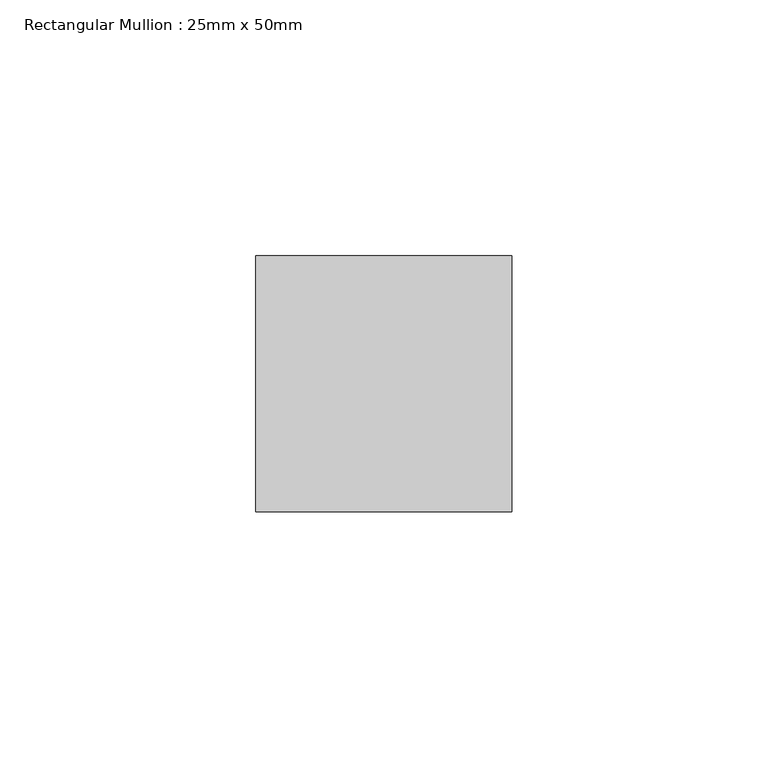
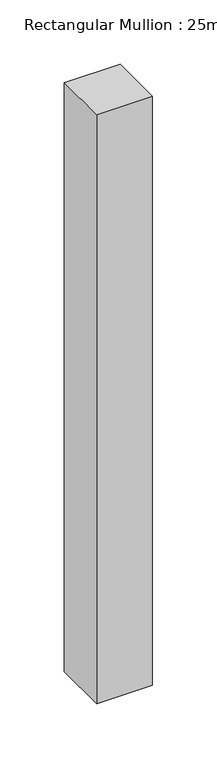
"""IFC4 building model written with IfcOpenShell, lengths in millimetres: member geometry, Rectangular Mullion : 25mm x 50mm."""

import ifcopenshell
import ifcopenshell.guid

model = None  # the IFC model being written
_history = None  # IfcOwnerHistory: only IFC2X3 demands one
_inside = {}  # id of a spatial element -> (the spatial element, [elements in it])
_under = {}  # id of a project, library or spatial element -> (it, [spatial elements below it])
_declared = {}  # id of a project -> (the project, [libraries it declares])
_typed = {}  # id of a type object -> (the type object, [elements of that type])
_made_of = {}  # id of a material, layer set ... -> (it, [elements and type objects made of it])


def new_model(schema):
    """Start an empty IFC model of exactly this schema.

    Asked for "IFC4X3", IfcOpenShell would pick the latest addendum, in which some entities
    have other attributes; the version numbers below select the first issue.
    IFC2X3 requires an IfcOwnerHistory on every rooted entity: one is made here for all.
    """
    global model, _history
    if schema == "IFC4X3":
        model = ifcopenshell.file(schema_version=(4, 3, 0, 0))
    else:
        model = ifcopenshell.file(schema=schema)
    _inside.clear()
    _under.clear()
    _declared.clear()
    _typed.clear()
    _made_of.clear()
    _history = None
    if model.schema == "IFC2X3":
        org = make("IfcOrganization", Name="unknown")
        user = make(
            "IfcPersonAndOrganization",
            ThePerson=make("IfcPerson", FamilyName="unknown"),
            TheOrganization=org,
        )
        app = make(
            "IfcApplication",
            ApplicationDeveloper=org,
            Version="unknown",
            ApplicationFullName="unknown",
            ApplicationIdentifier="unknown",
        )
        _history = make(
            "IfcOwnerHistory",
            OwningUser=user,
            OwningApplication=app,
            ChangeAction="ADDED",
            CreationDate=0,
        )
    return model


def make(cls, **values):
    """One entity of the class cls with the attributes given. An attribute that is None is left unset."""
    return model.create_entity(
        cls, **{name: value for name, value in values.items() if value is not None}
    )


def rooted(cls, **values):
    """An entity with a GlobalId (a new one), such as an element, a storey or a relation."""
    return make(cls, GlobalId=ifcopenshell.guid.new(), OwnerHistory=_history, **values)


def si_unit(unit_type, name, prefix=None):
    """IfcSIUnit, for example si_unit("LENGTHUNIT", "METRE", prefix="MILLI")."""
    return make("IfcSIUnit", UnitType=unit_type, Prefix=prefix, Name=name)


def assignment(units):
    """IfcUnitAssignment: the units of a project."""
    return None if units is None else make("IfcUnitAssignment", Units=units)


def point(xyz):
    """IfcCartesianPoint."""
    return None if xyz is None else make("IfcCartesianPoint", Coordinates=xyz)


def direction(xyz):
    """IfcDirection."""
    return None if xyz is None else make("IfcDirection", DirectionRatios=xyz)


def frame(location, z_axis=None, x_axis=None):
    """IfcAxis2Placement3D, a coordinate frame: its origin and axes. An axis left out is left unset."""
    return make(
        "IfcAxis2Placement3D",
        Location=point(location),
        Axis=direction(z_axis),
        RefDirection=direction(x_axis),
    )


def origin():
    """The frame at (0, 0, 0) with its axes left unset."""
    return frame((0.0, 0.0, 0.0))


def place(relative_to, where):
    """IfcLocalPlacement: puts the frame where relative to a parent placement (None: the world)."""
    return make(
        "IfcLocalPlacement", PlacementRelTo=relative_to, RelativePlacement=where
    )


def context(
    kind, dimensions, precision=None, world=None, true_north=None, identifier=None
):
    """IfcGeometricRepresentationContext, for example the 3D "Model" context."""
    return make(
        "IfcGeometricRepresentationContext",
        ContextIdentifier=identifier,
        ContextType=kind,
        CoordinateSpaceDimension=dimensions,
        Precision=precision,
        WorldCoordinateSystem=world,
        TrueNorth=true_north,
    )


def project(units=None, contexts=None):
    """IfcProject with its units and contexts."""
    return rooted(
        "IfcProject",
        Name="project",
        RepresentationContexts=contexts,
        UnitsInContext=assignment(units),
    )


def spatial(cls, under=None, at=None, **own):
    """A site, building, storey or space (cls), placed at a placement, below another one or the project."""
    s = rooted(cls, ObjectPlacement=at, **own)
    if under is not None:
        _under.setdefault(under.id(), (under, []))[1].append(s)
    return s


def polyline(points):
    """IfcPolyline through the points."""
    return make("IfcPolyline", Points=[point(p) for p in points])


def outline(outer, holes=None, kind="AREA"):
    """IfcArbitraryClosedProfileDef: a profile drawn as a closed curve; with holes, ...WithVoids."""
    if holes is None:
        return make("IfcArbitraryClosedProfileDef", ProfileType=kind, OuterCurve=outer)
    return make(
        "IfcArbitraryProfileDefWithVoids",
        ProfileType=kind,
        OuterCurve=outer,
        InnerCurves=holes,
    )


def extrude(swept, where, along, depth):
    """IfcExtrudedAreaSolid: the profile swept, set in the frame where, extruded along a direction by depth."""
    return make(
        "IfcExtrudedAreaSolid",
        SweptArea=swept,
        Position=where,
        ExtrudedDirection=direction(along),
        Depth=depth,
    )


def shape(context_of_items, identifier, shape_type, items):
    """IfcShapeRepresentation: the items that make up one representation, for example the "Body"."""
    return make(
        "IfcShapeRepresentation",
        ContextOfItems=context_of_items,
        RepresentationIdentifier=identifier,
        RepresentationType=shape_type,
        Items=items,
    )


def source(mapping_origin, context_of_items, identifier, shape_type, items):
    """IfcRepresentationMap: a shape defined once, which mapped items show again and again."""
    return make(
        "IfcRepresentationMap",
        MappingOrigin=mapping_origin,
        MappedRepresentation=shape(context_of_items, identifier, shape_type, items),
    )


def transform(
    local_origin,
    x_axis=None,
    y_axis=None,
    z_axis=None,
    scale=None,
    scale2=None,
    scale3=None,
    uniform=True,
):
    """IfcCartesianTransformationOperator3D, or its non-uniform kind. x_axis, y_axis, z_axis: its Axis1, 2, 3."""
    if uniform:
        return make(
            "IfcCartesianTransformationOperator3D",
            Axis1=direction(x_axis),
            Axis2=direction(y_axis),
            LocalOrigin=point(local_origin),
            Scale=scale,
            Axis3=direction(z_axis),
        )
    return make(
        "IfcCartesianTransformationOperator3DnonUniform",
        Axis1=direction(x_axis),
        Axis2=direction(y_axis),
        LocalOrigin=point(local_origin),
        Scale=scale,
        Axis3=direction(z_axis),
        Scale2=scale2,
        Scale3=scale3,
    )


def mapped(mapping_source, mapping_target):
    """IfcMappedItem: shows the shape of a source again, moved by a transform."""
    return make(
        "IfcMappedItem", MappingSource=mapping_source, MappingTarget=mapping_target
    )


def made_of(thing, what):
    """Note that an element or type object is made of a material, layer set ...; save() writes the relation."""
    if what is not None:
        _made_of.setdefault(what.id(), (what, []))[1].append(thing)
    return thing


def element(
    cls,
    number,
    at=None,
    inside=None,
    cuts=None,
    type_object=None,
    material=None,
    context=None,
    identifier="Body",
    shape_type=None,
    held_by="IfcProductDefinitionShape",
    body=None,
    shapes=None,
    **own,
):
    """One element of the class cls, such as IfcWall. Its Tag is "e" and its number.

    at: its placement. inside: the storey or other place that contains it. cuts: it is an
    opening in that element (IfcRelVoidsElement). A single representation is given by context,
    identifier, shape_type and body (its items); several are given by shapes. held_by: the class
    of the entity that holds the representations. save() writes the other relations.
    """
    e = rooted(cls, Tag="e%d" % number, ObjectPlacement=at, **own)
    if body is not None:
        shapes = [shape(context, identifier, shape_type, body)]
    if shapes is not None:
        e.Representation = make(held_by, Representations=shapes)
    if inside is not None:
        _inside.setdefault(inside.id(), (inside, []))[1].append(e)
    if cuts is not None:
        rooted(
            "IfcRelVoidsElement", RelatingBuildingElement=cuts, RelatedOpeningElement=e
        )
    if type_object is not None:
        _typed.setdefault(type_object.id(), (type_object, []))[1].append(e)
    return made_of(e, material)


def aggregate(whole, parts):
    """IfcRelAggregates: a whole, such as a stair, and the parts it consists of."""
    return rooted("IfcRelAggregates", RelatingObject=whole, RelatedObjects=parts)


def save(model, path):
    """Write the relations noted so far, then the file.

    IfcRelAggregates (storeys below a building ...), IfcRelContainedInSpatialStructure (elements
    in a storey), IfcRelDefinesByType, IfcRelAssociatesMaterial and IfcRelDeclares: one each for
    every whole, place, type object, material and project.
    """
    for whole, parts in _under.values():
        aggregate(whole, parts)
    for where, things in _inside.values():
        rooted(
            "IfcRelContainedInSpatialStructure",
            RelatedElements=things,
            RelatingStructure=where,
        )
    for kind, things in _typed.values():
        rooted("IfcRelDefinesByType", RelatedObjects=things, RelatingType=kind)
    for what, things in _made_of.values():
        rooted("IfcRelAssociatesMaterial", RelatedObjects=things, RelatingMaterial=what)
    for by, libraries in _declared.values():
        rooted("IfcRelDeclares", RelatingContext=by, RelatedDefinitions=libraries)
    model.write(path)


def rectangular_mullion_25mm_x_50mm_c01b98ac(model_context):
    return source(origin(), model_context, "Body", "SweptSolid", [
        extrude(outline(polyline([(25.0, 25.0), (25.0, -25.0), (-25.0, -25.0), (-25.0, 25.0), (25.0, 25.0)])), frame((0.0, 0.0, -558.5043744), z_axis=(0.0, 0.0, 1.0), x_axis=(1.0, 0.0, 0.0)), (0.0, 0.0, 1.0), 558.5043744),
    ])


if __name__ == "__main__":
    model = new_model("IFC4")
    model_context = context("Model", 3, world=origin())
    ifc_project = project(units=[si_unit("LENGTHUNIT", "METRE", prefix="MILLI")], contexts=[model_context])
    site = spatial("IfcSite", under=ifc_project)
    building = spatial("IfcBuilding", under=site)
    placement = place(None, origin())
    rectangular_mullion_25mm_x_50mm_shape = rectangular_mullion_25mm_x_50mm_c01b98ac(model_context)
    element("IfcMember", 1, ObjectType="Rectangular Mullion : 25mm x 50mm", at=placement, inside=building, context=model_context, shape_type="MappedRepresentation", body=[
        mapped(rectangular_mullion_25mm_x_50mm_shape, transform((0.0, 0.0, 0.0), x_axis=(1.0, 0.0, 0.0), y_axis=(0.0, 1.0, 0.0), z_axis=(0.0, 0.0, 1.0))),
    ])
    save(model, "model.ifc")
